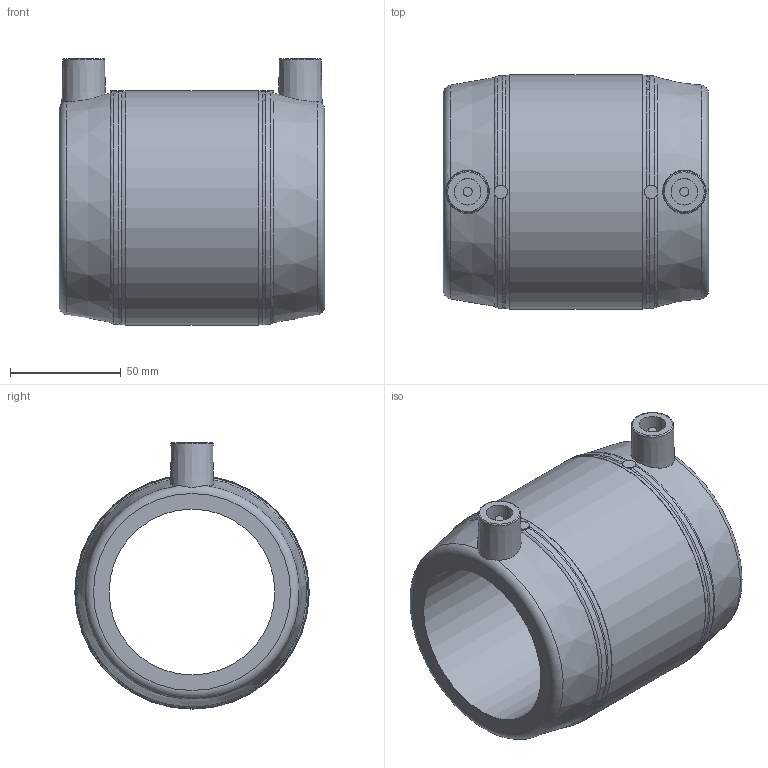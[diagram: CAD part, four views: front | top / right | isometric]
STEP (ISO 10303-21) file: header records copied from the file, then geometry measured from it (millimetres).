
FILE_DESCRIPTION(/* description */ ('Unknown'),/* implementation_level */ '2;1');
FILE_NAME(/* name */ 'MP075H',/* time_stamp */ '2021-05-26T17:30:03+02:00',/* author */ ('Unknown'),/* organization */ ('Unknown'),/* preprocessor_version */ 'ST-DEVELOPER v16.7',/* originating_system */ 'Solid Edge',/* authorisation */ 'Unknown');
FILE_SCHEMA (('AUTOMOTIVE_DESIGN {1 0 10303 214 3 1 1}'));
Length unit declared in the file: millimetre
Products named in the file (1): MP075H
Bounding box: 120 x 106 x 120.5 mm (x, y, z)
Volume: 486989.5 mm3; surface area: 76162.4 mm2
Topology: 1 solids, 1 shells, 36 faces, 80 edges, 50 vertices
Faces by surface type: torus 10, plane 10, cone 8, cylinder 8
Full cylindrical faces by diameter (mm): 4 x2, 6 x2, 12 x2, 75 x1, 106 x1
Entity records: 892 total; most frequent: CARTESIAN_POINT 215, DIRECTION 138, ORIENTED_EDGE 100, AXIS2_PLACEMENT_3D 69, EDGE_LOOP 62, FACE_BOUND 62, EDGE_CURVE 50, VERTEX_POINT 40
